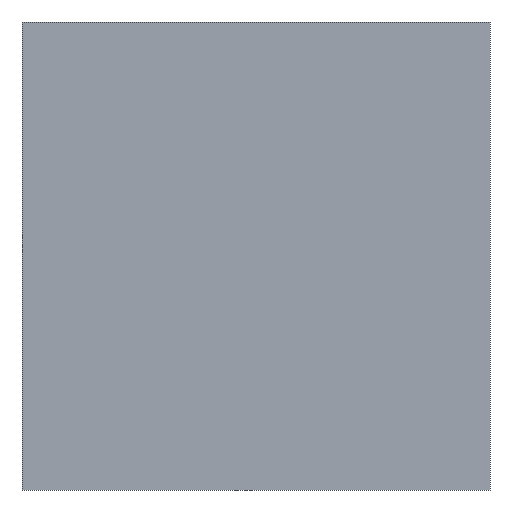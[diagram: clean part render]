
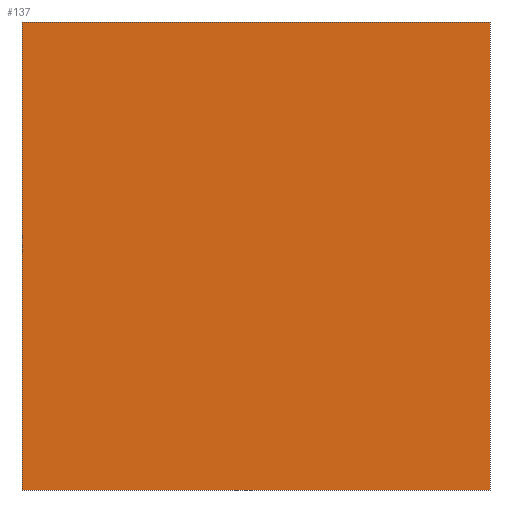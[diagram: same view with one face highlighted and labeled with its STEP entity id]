
A CAD part, front view. The second image highlights one B-rep face of the part: STEP entity #137.
In plain terms, the highlighted planar face has unit normal (0, -1, 0).
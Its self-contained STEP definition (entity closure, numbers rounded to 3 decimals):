
#51=FACE_OUTER_BOUND('',#57,.T.);
#57=EDGE_LOOP('',(#122,#123,#124,#125));
#63=LINE('',#246,#75);
#66=LINE('',#251,#78);
#68=LINE('',#255,#80);
#69=LINE('',#257,#81);
#75=VECTOR('',#191,10.);
#78=VECTOR('',#196,10.);
#80=VECTOR('',#200,10.);
#81=VECTOR('',#203,10.);
#86=VERTEX_POINT('',#243);
#87=VERTEX_POINT('',#245);
#88=VERTEX_POINT('',#249);
#89=VERTEX_POINT('',#253);
#95=EDGE_CURVE('',#86,#87,#63,.T.);
#98=EDGE_CURVE('',#88,#86,#66,.T.);
#100=EDGE_CURVE('',#89,#88,#68,.T.);
#101=EDGE_CURVE('',#87,#89,#69,.T.);
#122=ORIENTED_EDGE('',*,*,#101,.F.);
#123=ORIENTED_EDGE('',*,*,#95,.F.);
#124=ORIENTED_EDGE('',*,*,#98,.F.);
#125=ORIENTED_EDGE('',*,*,#100,.F.);
#131=PLANE('',#166);
#137=ADVANCED_FACE('',(#51),#131,.F.);
#166=AXIS2_PLACEMENT_3D('',#258,#204,#205);
#191=DIRECTION('',(-1.,0.,0.));
#196=DIRECTION('',(0.,0.,-1.));
#200=DIRECTION('',(1.,0.,0.));
#203=DIRECTION('',(0.,0.,1.));
#204=DIRECTION('center_axis',(0.,1.,0.));
#205=DIRECTION('ref_axis',(0.,0.,1.));
#243=CARTESIAN_POINT('',(20.,0.,-20.));
#245=CARTESIAN_POINT('',(-20.,0.,-20.));
#246=CARTESIAN_POINT('',(20.,0.,-20.));
#249=CARTESIAN_POINT('',(20.,0.,20.));
#251=CARTESIAN_POINT('',(20.,0.,20.));
#253=CARTESIAN_POINT('',(-20.,0.,20.));
#255=CARTESIAN_POINT('',(-20.,0.,20.));
#257=CARTESIAN_POINT('',(-20.,0.,-20.));
#258=CARTESIAN_POINT('Origin',(0.,0.,0.));
